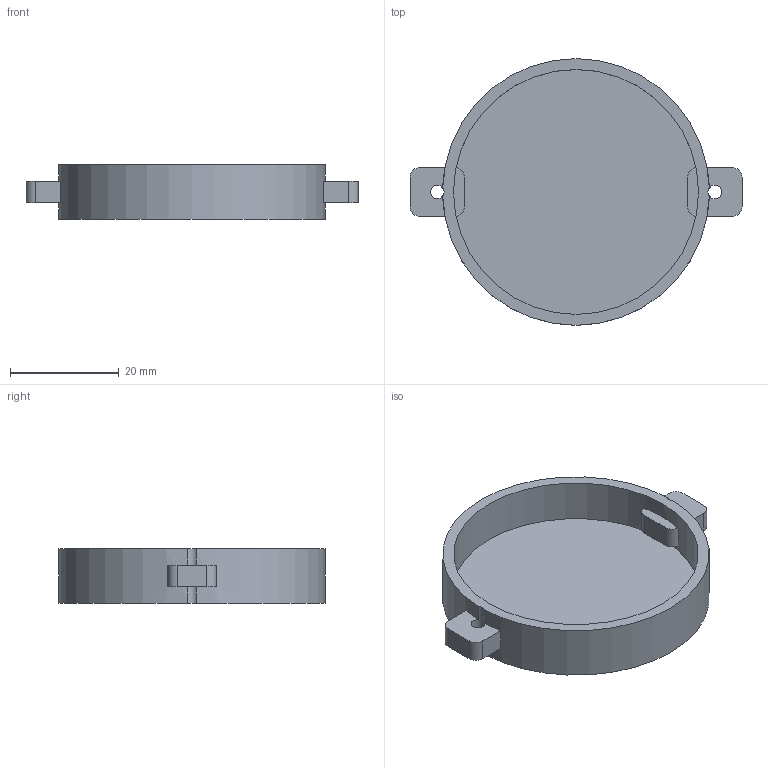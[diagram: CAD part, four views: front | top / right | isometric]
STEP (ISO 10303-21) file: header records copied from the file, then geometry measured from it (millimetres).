
FILE_DESCRIPTION(('Open CASCADE Model'),'2;1');
FILE_NAME('Open CASCADE Shape Model','2026-09-02T15:45:53',('Author'),( 'Open CASCADE'),'Open CASCADE STEP processor 7.7','Open CASCADE 7.7' ,'Unknown');
FILE_SCHEMA(('AUTOMOTIVE_DESIGN { 1 0 10303 214 1 1 1 1 }'));
Length unit declared in the file: millimetre
Products named in the file (1): Open CASCADE STEP translator 7.7 4
Bounding box: 61 x 49 x 10 mm (x, y, z)
Volume: 6644.6 mm3; surface area: 6864.8 mm2
Topology: 1 solids, 1 shells, 32 faces, 96 edges, 64 vertices
Faces by surface type: plane 19, cylinder 13
Full cylindrical faces by diameter (mm): 2.5 x2, 45 x1
Entity records: 2387 total; most frequent: CARTESIAN_POINT 507, DIRECTION 355, ORIENTED_EDGE 192, PCURVE 192, DEFINITIONAL_REPRESENTATION 192, LINE 160, VECTOR 160, EDGE_CURVE 96
